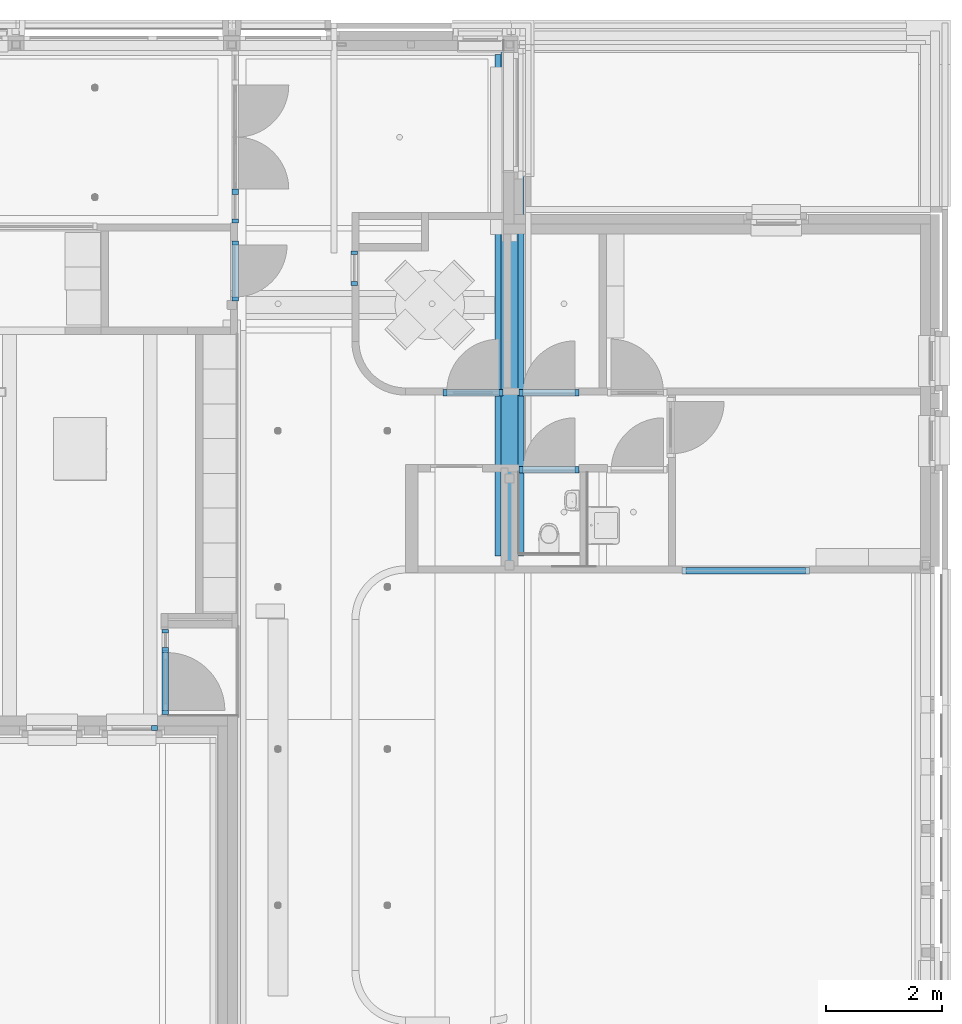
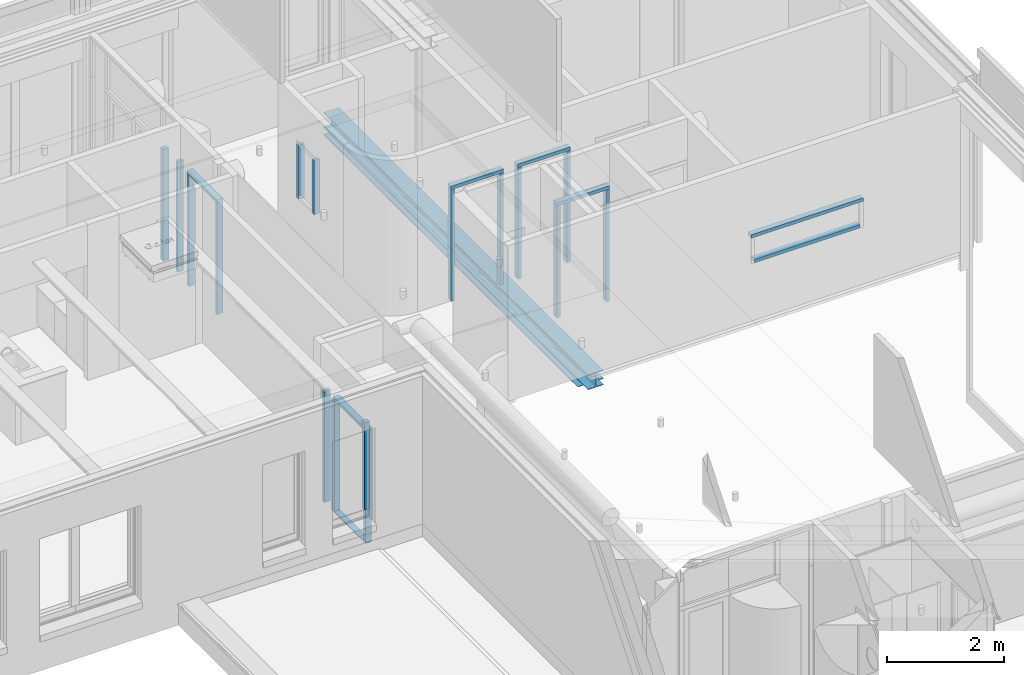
# One storey, part 21 of 128: 24 members, 1 beam, 9 elements without a shape of their own.
"""IFC2X3 building model written with IfcOpenShell, lengths in millimetres."""

from ifc_helpers import new_model, entity, si_unit, converted_unit, derived_unit, direction, frame, frame_2d, origin, origin_2d_with_axis, place, context, subcontext, project, spatial, polyline, circle_curve, parameter, trimmed, segment, composite_curve, rectangle, outline, extrude, source, transform, mapped, material, material_list, type_object, type_shapes, element, aggregate, save


model = new_model("IFC2X3")

# Units and contexts
model_context = context("Model", 3, precision=0.01, world=origin(), true_north=direction((6.123031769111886e-17, 1.0)))
body_context = subcontext(model_context, "Body", "Model", "MODEL_VIEW")
ifc_project = project(units=[si_unit("LENGTHUNIT", "METRE", prefix="MILLI"), si_unit("AREAUNIT", "SQUARE_METRE"), si_unit("VOLUMEUNIT", "CUBIC_METRE"), converted_unit("PLANEANGLEUNIT", "DEGREE", entity("IfcRatioMeasure", 0.017453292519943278), si_unit("PLANEANGLEUNIT", "RADIAN"), dimensions=[0, 0, 0, 0, 0, 0, 0]), si_unit("MASSUNIT", "GRAM", prefix="KILO"), derived_unit("MASSDENSITYUNIT", [(si_unit("MASSUNIT", "GRAM", prefix="KILO"), 1), (si_unit("LENGTHUNIT", "METRE"), -3)]), derived_unit("IONCONCENTRATIONUNIT", [(si_unit("MASSUNIT", "GRAM", prefix="KILO"), 1), (si_unit("LENGTHUNIT", "METRE"), -3)]), derived_unit("MOMENTOFINERTIAUNIT", [(si_unit("LENGTHUNIT", "METRE"), 4)]), si_unit("TIMEUNIT", "SECOND"), si_unit("FREQUENCYUNIT", "HERTZ"), si_unit("THERMODYNAMICTEMPERATUREUNIT", "DEGREE_CELSIUS"), derived_unit("THERMALTRANSMITTANCEUNIT", [(si_unit("MASSUNIT", "GRAM", prefix="KILO"), 1), (si_unit("THERMODYNAMICTEMPERATUREUNIT", "KELVIN"), -1), (si_unit("TIMEUNIT", "SECOND"), -3)]), derived_unit("THERMALCONDUCTANCEUNIT", [(si_unit("MASSUNIT", "GRAM", prefix="KILO"), 1), (si_unit("THERMODYNAMICTEMPERATUREUNIT", "KELVIN"), -1), (si_unit("TIMEUNIT", "SECOND"), -3), (si_unit("LENGTHUNIT", "METRE"), 1)]), derived_unit("VOLUMETRICFLOWRATEUNIT", [(si_unit("LENGTHUNIT", "METRE"), 3), (si_unit("TIMEUNIT", "SECOND"), -1)]), derived_unit("MASSFLOWRATEUNIT", [(si_unit("MASSUNIT", "GRAM", prefix="KILO"), 1), (si_unit("TIMEUNIT", "SECOND"), -1)]), derived_unit("ROTATIONALFREQUENCYUNIT", [(si_unit("TIMEUNIT", "SECOND"), -1)]), si_unit("ELECTRICCURRENTUNIT", "AMPERE"), si_unit("ELECTRICVOLTAGEUNIT", "VOLT"), si_unit("POWERUNIT", "WATT"), si_unit("FORCEUNIT", "NEWTON", prefix="KILO"), si_unit("ILLUMINANCEUNIT", "LUX"), si_unit("LUMINOUSFLUXUNIT", "LUMEN"), si_unit("LUMINOUSINTENSITYUNIT", "CANDELA"), derived_unit("USERDEFINED", [(si_unit("MASSUNIT", "GRAM", prefix="KILO"), -1), (si_unit("LENGTHUNIT", "METRE"), -2), (si_unit("TIMEUNIT", "SECOND"), 3), (si_unit("LUMINOUSFLUXUNIT", "LUMEN"), 1)]), derived_unit("USERDEFINED", [(si_unit("MASSUNIT", "GRAM", prefix="KILO"), 1), (si_unit("TIMEUNIT", "SECOND"), -3), (si_unit("LENGTHUNIT", "METRE"), 3), (si_unit("ELECTRICCURRENTUNIT", "AMPERE"), -2)]), derived_unit("SOUNDPOWERUNIT", [(si_unit("MASSUNIT", "GRAM", prefix="KILO"), 1), (si_unit("TIMEUNIT", "SECOND"), -3), (si_unit("LENGTHUNIT", "METRE"), 2)]), derived_unit("SOUNDPRESSUREUNIT", [(si_unit("MASSUNIT", "GRAM", prefix="KILO"), 1), (si_unit("LENGTHUNIT", "METRE"), -1), (si_unit("TIMEUNIT", "SECOND"), -2)]), derived_unit("LINEARVELOCITYUNIT", [(si_unit("LENGTHUNIT", "METRE"), 1), (si_unit("TIMEUNIT", "SECOND"), -1)]), si_unit("PRESSUREUNIT", "PASCAL"), derived_unit("USERDEFINED", [(si_unit("MASSUNIT", "GRAM", prefix="KILO"), 1), (si_unit("LENGTHUNIT", "METRE"), -2), (si_unit("TIMEUNIT", "SECOND"), -2)]), derived_unit("LINEARFORCEUNIT", [(si_unit("MASSUNIT", "GRAM", prefix="KILO"), 1), (si_unit("TIMEUNIT", "SECOND"), -2)]), derived_unit("PLANARFORCEUNIT", [(si_unit("MASSUNIT", "GRAM", prefix="KILO"), 1), (si_unit("LENGTHUNIT", "METRE"), -1), (si_unit("TIMEUNIT", "SECOND"), -2)]), derived_unit("SPECIFICHEATCAPACITYUNIT", [(si_unit("THERMODYNAMICTEMPERATUREUNIT", "KELVIN"), -1), (si_unit("LENGTHUNIT", "METRE"), 2), (si_unit("TIMEUNIT", "SECOND"), -2)]), derived_unit("HEATINGVALUEUNIT", [(si_unit("LENGTHUNIT", "METRE"), 2), (si_unit("TIMEUNIT", "SECOND"), -2)]), derived_unit("VAPORPERMEABILITYUNIT", [(si_unit("LENGTHUNIT", "METRE"), -1), (si_unit("TIMEUNIT", "SECOND"), 1)]), derived_unit("DYNAMICVISCOSITYUNIT", [(si_unit("MASSUNIT", "GRAM", prefix="KILO"), 1), (si_unit("TIMEUNIT", "SECOND"), -1), (si_unit("LENGTHUNIT", "METRE"), -1)]), derived_unit("THERMALEXPANSIONCOEFFICIENTUNIT", [(si_unit("THERMODYNAMICTEMPERATUREUNIT", "KELVIN"), -1)]), derived_unit("MODULUSOFELASTICITYUNIT", [(si_unit("MASSUNIT", "GRAM", prefix="KILO"), 1), (si_unit("LENGTHUNIT", "METRE"), -1), (si_unit("TIMEUNIT", "SECOND"), -2)]), derived_unit("ISOTHERMALMOISTURECAPACITYUNIT", [(si_unit("LENGTHUNIT", "METRE"), 3), (si_unit("MASSUNIT", "GRAM", prefix="KILO"), -1)]), derived_unit("MOISTUREDIFFUSIVITYUNIT", [(si_unit("TIMEUNIT", "SECOND"), -1), (si_unit("LENGTHUNIT", "METRE"), 2)])], contexts=[model_context])

# Site, building, storey
site_placement = place(None, frame((0.0, 300.0, 0.0)))
site = spatial("IfcSite", under=ifc_project, at=site_placement, Name="<Kadastrale nummers>", CompositionType="ELEMENT")
building_placement = place(site_placement, origin())
building = spatial("IfcBuilding", under=site, at=building_placement, CompositionType="ELEMENT")
storey_placement = place(building_placement, frame((0.0, 0.0, 3560.0000331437)))
storey = spatial("IfcBuildingStorey", under=building, at=storey_placement, Name="01 eerste verdieping", CompositionType="ELEMENT", Elevation=3560.0000331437)

# Beam
ifc_material_1 = material(Name="ISR_Staal")
ifc_material_2 = material(Name="<Unnamed>")
ifc_material_list = material_list([ifc_material_2, ifc_material_1])
beam_type = type_object("IfcBeamType", Name="NLRS_28_SF_LIB_balk SFB_gen_ASN:balk HEA320 500x15", PredefinedType="T_BEAM", material=ifc_material_list)
shared_shape_1 = source(origin(), body_context, "Body", "SweptSolid", [
    extrude(rectangle(XDim=15.00000000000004, YDim=499.99999999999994, at=origin_2d_with_axis()), frame((-4330.000262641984, 0.0, -113.50000000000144), z_axis=(1.0, 0.0, 0.0), x_axis=(0.0, 0.0, -1.0)), (0.0, 0.0, 1.0), 8660.000525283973),
    extrude(outline(composite_curve([segment(polyline([(139.49999999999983, -150.0), (155.0, -150.0)]), True, "CONTINUOUS"), segment(polyline([(155.0, -150.0), (155.0, 150.0)]), True, "CONTINUOUS"), segment(polyline([(155.0, 150.0), (139.49999999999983, 150.0)]), True, "CONTINUOUS"), segment(polyline([(139.49999999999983, 150.0), (139.49999999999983, 31.499999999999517)]), True, "CONTINUOUS"), segment(trimmed(circle_curve(frame_2d((112.49999999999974, 31.499999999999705), x_axis=(1.0, 0.0)), 27.00000000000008), [parameter(270.0000000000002)], [parameter(0.0)], True, "PARAMETER"), False, "CONTINUOUS"), segment(polyline([(112.49999999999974, 4.499999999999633), (-112.5, 4.499999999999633)]), True, "CONTINUOUS"), segment(trimmed(circle_curve(frame_2d((-112.49999999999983, 31.49999999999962), x_axis=(0.0, -1.0)), 26.999999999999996), [parameter(269.9999999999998)], [parameter(0.0)], True, "PARAMETER"), False, "CONTINUOUS"), segment(polyline([(-139.49999999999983, 31.499999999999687), (-139.49999999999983, 150.0)]), True, "CONTINUOUS"), segment(polyline([(-139.49999999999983, 150.0), (-155.0, 150.0)]), True, "CONTINUOUS"), segment(polyline([(-155.0, 150.0), (-155.0, -150.0)]), True, "CONTINUOUS"), segment(polyline([(-155.0, -150.0), (-139.49999999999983, -150.0)]), True, "CONTINUOUS"), segment(polyline([(-139.49999999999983, -150.0), (-139.49999999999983, -31.500000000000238)]), True, "CONTINUOUS"), segment(trimmed(circle_curve(frame_2d((-112.49999999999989, -31.500000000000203), x_axis=(-1.0, 0.0)), 26.99999999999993), [parameter(269.9999999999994)], [parameter(0.0)], True, "PARAMETER"), False, "CONTINUOUS"), segment(polyline([(-112.49999999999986, -4.500000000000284), (112.49999999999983, -4.500000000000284)]), True, "CONTINUOUS"), segment(trimmed(circle_curve(frame_2d((112.49999999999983, -31.500000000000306), x_axis=(0.0, 1.0)), 27.00000000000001), [parameter(269.99999999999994)], [parameter(0.0)], True, "PARAMETER"), False, "CONTINUOUS"), segment(polyline([(139.49999999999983, -31.500000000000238), (139.49999999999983, -150.0)]), True, "CONTINUOUS")], self_intersect=False)), frame((-4505.000262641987, 0.0, 49.0), z_axis=(1.0, 0.0, 0.0), x_axis=(0.0, 0.0, -1.0)), (0.0, 0.0, 1.0), 9010.000525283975),
])
type_shapes(beam_type, [shared_shape_1])
beam_placement = place(storey_placement, frame((41400.0, 45294.99973735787, -214.0), z_axis=(0.0, 0.0, 1.0), x_axis=(0.0, -1.0, 0.0)))
element("IfcBeam", 1, at=beam_placement, inside=storey, type_object=beam_type, material=ifc_material_1, Name="NLRS_28_SF_LIB_balk SFB_gen_ASN:balk HEA320 500x15", ObjectType="NLRS_28_SF_LIB_balk SFB_gen_ASN:balk HEA320 500x15", context=body_context, shape_type="MappedRepresentation", body=[
    mapped(shared_shape_1, transform((0.0, 0.0, 0.0), scale=1.0)),
])

# Curtain wall, member
curtain_wall_type_1 = type_object("IfcCurtainWallType", Name="Curtain Wall:Merk H02", PredefinedType="NOTDEFINED")
curtain_wall_1_placement = place(storey_placement, frame((0.0, 0.0, -3560.0000331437)))
curtain_wall_1 = element("IfcCurtainWall", 2, at=curtain_wall_1_placement, inside=storey, type_object=curtain_wall_type_1, Name="Curtain Wall:Merk H02", ObjectType="Curtain Wall:Merk H02")
ifc_material_3 = material(Name="ISR_HPL")
member_type_1 = type_object("IfcMemberType", Name="Rectangular Mullion:31_CWM_067x114", PredefinedType="MULLION", material=ifc_material_3)
shared_shape_2 = source(origin(), body_context, "Body", "SweptSolid", [
    extrude(rectangle(XDim=113.99999999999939, YDim=67.0, at=origin_2d_with_axis()), frame((-33.5, -57.0, -1034.0), z_axis=(0.0, 0.0, 1.0), x_axis=(0.0, -1.0, 0.0)), (0.0, 0.0, 1.0), 1033.9999999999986),
])
type_shapes(member_type_1, [shared_shape_2])
member_1_placement = place(curtain_wall_1_placement, frame((42599.0, 43725.12500267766, 6040.0000331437), z_axis=(1.0, 0.0, 0.0), x_axis=(0.0, 0.0, 1.0)))
member_1 = element("IfcMember", 3, at=member_1_placement, type_object=member_type_1, material=ifc_material_3, Name="Rectangular Mullion:31_CWM_067x114", ObjectType="Rectangular Mullion:31_CWM_067x114", context=body_context, shape_type="MappedRepresentation", body=[
    mapped(shared_shape_2, transform((0.0, 0.0, 0.0), scale=1.0)),
])

curtain_wall_2_placement = place(storey_placement, frame((0.0, 0.0, -3560.0000331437)))
curtain_wall_2 = element("IfcCurtainWall", 4, at=curtain_wall_2_placement, inside=storey, type_object=curtain_wall_type_1, Name="Curtain Wall:Merk H02", ObjectType="Curtain Wall:Merk H02")
member_2_placement = place(curtain_wall_2_placement, frame((42599.0, 42395.12500267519, 6040.0000331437), z_axis=(1.0, 0.0, 0.0), x_axis=(0.0, 0.0, 1.0)))
member_2 = element("IfcMember", 5, at=member_2_placement, type_object=member_type_1, material=ifc_material_3, Name="Rectangular Mullion:31_CWM_067x114", ObjectType="Rectangular Mullion:31_CWM_067x114", context=body_context, shape_type="MappedRepresentation", body=[
    mapped(shared_shape_2, transform((0.0, 0.0, 0.0), scale=1.0)),
])

curtain_wall_type_2 = type_object("IfcCurtainWallType", Name="Curtain Wall:Merk H16", PredefinedType="NOTDEFINED")
curtain_wall_3_placement = place(storey_placement, frame((0.0, 0.0, -3560.0000331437)))
curtain_wall_3 = element("IfcCurtainWall", 6, at=curtain_wall_3_placement, inside=storey, type_object=curtain_wall_type_2, Name="Curtain Wall:Merk H16", ObjectType="Curtain Wall:Merk H16")
member_3_placement = place(curtain_wall_3_placement, frame((41285.0, 43725.12500267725, 6040.0000331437), z_axis=(1.0, 0.0, 0.0), x_axis=(0.0, 0.0, 1.0)))
member_3 = element("IfcMember", 7, at=member_3_placement, type_object=member_type_1, material=ifc_material_3, Name="Rectangular Mullion:31_CWM_067x114", ObjectType="Rectangular Mullion:31_CWM_067x114", context=body_context, shape_type="MappedRepresentation", body=[
    mapped(shared_shape_2, transform((0.0, 0.0, 0.0), scale=1.0)),
])

# Member
member_type_2 = type_object("IfcMemberType", Name="Rectangular Mullion:31_CWM_067x114", PredefinedType="MULLION", material=ifc_material_3)
shared_shape_3 = source(origin(), body_context, "Body", "SweptSolid", [
    extrude(rectangle(XDim=113.99999999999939, YDim=67.0, at=origin_2d_with_axis()), frame((-33.5, -57.0, -2323.0), z_axis=(0.0, 0.0, 1.0), x_axis=(0.0, -1.0, 0.0)), (0.0, 0.0, 1.0), 2323.0),
])
type_shapes(member_type_2, [shared_shape_3])
member_4_placement = place(curtain_wall_1_placement, frame((42599.0, 43725.12500267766, 3650.00003501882), z_axis=(0.0, 0.0, -1.0), x_axis=(1.0, 0.0, 0.0)))
member_4 = element("IfcMember", 8, at=member_4_placement, type_object=member_type_2, material=ifc_material_3, Name="Rectangular Mullion:31_CWM_067x114", ObjectType="Rectangular Mullion:31_CWM_067x114", context=body_context, shape_type="MappedRepresentation", body=[
    mapped(shared_shape_3, transform((0.0, 0.0, 0.0), scale=1.0)),
])

member_5_placement = place(curtain_wall_2_placement, frame((42599.0, 42395.12500267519, 3650.00003501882), z_axis=(0.0, 0.0, -1.0), x_axis=(1.0, 0.0, 0.0)))
member_5 = element("IfcMember", 9, at=member_5_placement, type_object=member_type_2, material=ifc_material_3, Name="Rectangular Mullion:31_CWM_067x114", ObjectType="Rectangular Mullion:31_CWM_067x114", context=body_context, shape_type="MappedRepresentation", body=[
    mapped(shared_shape_3, transform((0.0, 0.0, 0.0), scale=1.0)),
])

member_6_placement = place(curtain_wall_3_placement, frame((41285.0, 43725.12500267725, 3650.0000350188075), z_axis=(0.0, 0.0, -1.0), x_axis=(1.0, 0.0, 0.0)))
member_6 = element("IfcMember", 10, at=member_6_placement, type_object=member_type_2, material=ifc_material_3, Name="Rectangular Mullion:31_CWM_067x114", ObjectType="Rectangular Mullion:31_CWM_067x114", context=body_context, shape_type="MappedRepresentation", body=[
    mapped(shared_shape_3, transform((0.0, 0.0, 0.0), scale=1.0)),
])

# Curtain wall, member
curtain_wall_type_3 = type_object("IfcCurtainWallType", Name="Curtain Wall:Merk H03", PredefinedType="NOTDEFINED")
curtain_wall_4_placement = place(storey_placement, frame((0.0, 0.0, -3560.0000331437)))
curtain_wall_4 = element("IfcCurtainWall", 11, at=curtain_wall_4_placement, inside=storey, type_object=curtain_wall_type_3, Name="Curtain Wall:Merk H03", ObjectType="Curtain Wall:Merk H03")
member_type_3 = type_object("IfcMemberType", Name="Rectangular Mullion:31_CWM_067x114", PredefinedType="MULLION", material=ifc_material_3)
shared_shape_4 = source(origin(), body_context, "Body", "SweptSolid", [
    extrude(rectangle(XDim=113.9999999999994, YDim=67.0, at=frame_2d((1.0658141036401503e-14, 0.0), x_axis=(1.0, 0.0))), frame((-33.5, -57.0, -2323.0), z_axis=(0.0, 0.0, 1.0), x_axis=(0.0, -1.0, 0.0)), (0.0, 0.0, 1.0), 2323.0),
])
type_shapes(member_type_3, [shared_shape_4])
member_7_placement = place(curtain_wall_4_placement, frame((35396.03993791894, 39695.0, 5973.0000331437), z_axis=(0.0, 0.0, 1.0), x_axis=(0.0, 1.0, 0.0)))
member_7 = element("IfcMember", 12, at=member_7_placement, type_object=member_type_3, material=ifc_material_3, Name="Rectangular Mullion:31_CWM_067x114", ObjectType="Rectangular Mullion:31_CWM_067x114", context=body_context, shape_type="MappedRepresentation", body=[
    mapped(shared_shape_4, transform((0.0, 0.0, 0.0), scale=1.0)),
])

# Member
member_8_placement = place(curtain_wall_1_placement, frame((41565.0, 43725.12500267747, 5973.0000331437), z_axis=(0.0, 0.0, 1.0), x_axis=(-1.0, 0.0, 0.0)))
member_8 = element("IfcMember", 13, at=member_8_placement, type_object=member_type_3, material=ifc_material_3, Name="Rectangular Mullion:31_CWM_067x114", ObjectType="Rectangular Mullion:31_CWM_067x114", context=body_context, shape_type="MappedRepresentation", body=[
    mapped(shared_shape_4, transform((0.0, 0.0, 0.0), scale=1.0)),
])

aggregate(curtain_wall_1, [member_1, member_4, member_8])

member_9_placement = place(curtain_wall_2_placement, frame((41565.0, 42395.125002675, 5973.0000331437), z_axis=(0.0, 0.0, 1.0), x_axis=(-1.0, 0.0, 0.0)))
member_9 = element("IfcMember", 14, at=member_9_placement, type_object=member_type_3, material=ifc_material_3, Name="Rectangular Mullion:31_CWM_067x114", ObjectType="Rectangular Mullion:31_CWM_067x114", context=body_context, shape_type="MappedRepresentation", body=[
    mapped(shared_shape_4, transform((0.0, 0.0, 0.0), scale=1.0)),
])

aggregate(curtain_wall_2, [member_2, member_5, member_9])

member_10_placement = place(curtain_wall_3_placement, frame((40251.0, 43725.12500267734, 5973.0000331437), z_axis=(0.0, 0.0, 1.0), x_axis=(-1.0, 0.0, 0.0)))
member_10 = element("IfcMember", 15, at=member_10_placement, type_object=member_type_3, material=ifc_material_3, Name="Rectangular Mullion:31_CWM_067x114", ObjectType="Rectangular Mullion:31_CWM_067x114", context=body_context, shape_type="MappedRepresentation", body=[
    mapped(shared_shape_4, transform((0.0, 0.0, 0.0), scale=1.0)),
])

aggregate(curtain_wall_3, [member_3, member_6, member_10])

# Curtain wall, members
curtain_wall_5_placement = place(storey_placement, frame((0.0, 0.0, -3560.0000331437)))
curtain_wall_5 = element("IfcCurtainWall", 16, at=curtain_wall_5_placement, inside=storey, type_object=curtain_wall_type_1, Name="Curtain Wall:Merk H02", ObjectType="Curtain Wall:Merk H02")
member_type_4 = type_object("IfcMemberType", Name="Rectangular Mullion:31_CWM_067x114", PredefinedType="MULLION", material=ifc_material_3)
shared_shape_5 = source(origin(), body_context, "Body", "SweptSolid", [
    extrude(rectangle(XDim=113.99999999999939, YDim=67.0, at=origin_2d_with_axis()), frame((-33.5, 57.0, -2323.0), z_axis=(0.0, 0.0, 1.0), x_axis=(0.0, -1.0, 0.0)), (0.0, 0.0, 1.0), 2323.0),
])
type_shapes(member_type_4, [shared_shape_5])
member_11_placement = place(curtain_wall_5_placement, frame((36601.0, 46404.10974942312, 3650.000035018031), z_axis=(0.0, 0.0, -1.0), x_axis=(0.0, 1.0, 0.0)))
member_11 = element("IfcMember", 17, at=member_11_placement, type_object=member_type_4, material=ifc_material_3, Name="Rectangular Mullion:31_CWM_067x114", ObjectType="Rectangular Mullion:31_CWM_067x114", context=body_context, shape_type="MappedRepresentation", body=[
    mapped(shared_shape_5, transform((0.0, 0.0, 0.0), scale=1.0)),
])
member_type_5 = type_object("IfcMemberType", Name="Rectangular Mullion:31_CWM_067x114", PredefinedType="MULLION", material=ifc_material_3)
shared_shape_6 = source(origin(), body_context, "Body", "SweptSolid", [
    extrude(rectangle(XDim=113.99999999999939, YDim=67.0, at=origin_2d_with_axis()), frame((-33.5, 57.0, -2323.0), z_axis=(0.0, 0.0, 1.0), x_axis=(0.0, -1.0, 0.0)), (0.0, 0.0, 1.0), 2323.0),
])
type_shapes(member_type_5, [shared_shape_6])
member_12_placement = place(curtain_wall_5_placement, frame((36601.0, 45370.109749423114, 5973.0000331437), z_axis=(0.0, 0.0, 1.0), x_axis=(0.0, -1.0, 0.0)))
member_12 = element("IfcMember", 18, at=member_12_placement, type_object=member_type_5, material=ifc_material_3, Name="Rectangular Mullion:31_CWM_067x114", ObjectType="Rectangular Mullion:31_CWM_067x114", context=body_context, shape_type="MappedRepresentation", body=[
    mapped(shared_shape_6, transform((0.0, 0.0, 0.0), scale=1.0)),
])
member_type_6 = type_object("IfcMemberType", Name="Rectangular Mullion:31_CWM_067x114", PredefinedType="MULLION", material=ifc_material_3)
shared_shape_7 = source(origin(), body_context, "Body", "SweptSolid", [
    extrude(rectangle(XDim=113.99999999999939, YDim=67.0, at=origin_2d_with_axis()), frame((-33.5, 57.0, -1034.0), z_axis=(0.0, 0.0, 1.0), x_axis=(0.0, -1.0, 0.0)), (0.0, 0.0, 1.0), 1033.9999999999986),
])
type_shapes(member_type_6, [shared_shape_7])
member_13_placement = place(curtain_wall_5_placement, frame((36601.0, 46404.10974942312, 6040.0000331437), z_axis=(0.0, 1.0, 0.0), x_axis=(0.0, 0.0, 1.0)))
member_13 = element("IfcMember", 19, at=member_13_placement, type_object=member_type_6, material=ifc_material_3, Name="Rectangular Mullion:31_CWM_067x114", ObjectType="Rectangular Mullion:31_CWM_067x114", context=body_context, shape_type="MappedRepresentation", body=[
    mapped(shared_shape_7, transform((0.0, 0.0, 0.0), scale=1.0)),
])
aggregate(curtain_wall_5, [member_13, member_11, member_12])

# Member
member_type_7 = type_object("IfcMemberType", Name="Rectangular Mullion:31_CWM_067x114", PredefinedType="MULLION", material=ifc_material_3)
shared_shape_8 = source(origin(), body_context, "Body", "SweptSolid", [
    extrude(rectangle(XDim=113.99999999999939, YDim=67.0, at=origin_2d_with_axis()), frame((-33.5, -57.0, -1112.0), z_axis=(0.0, 0.0, 1.0), x_axis=(0.0, -1.0, 0.0)), (0.0, 0.0, 1.0), 1112.0000000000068),
])
type_shapes(member_type_7, [shared_shape_8])
member_14_placement = place(curtain_wall_4_placement, frame((35396.03993791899, 38225.0, 6040.0000331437), z_axis=(0.0, -1.0, 0.0), x_axis=(0.0, 0.0, 1.0)))
member_14 = element("IfcMember", 20, at=member_14_placement, type_object=member_type_7, material=ifc_material_3, Name="Rectangular Mullion:31_CWM_067x114", ObjectType="Rectangular Mullion:31_CWM_067x114", context=body_context, shape_type="MappedRepresentation", body=[
    mapped(shared_shape_8, transform((0.0, 0.0, 0.0), scale=1.0)),
])

member_type_8 = type_object("IfcMemberType", Name="Rectangular Mullion:31_CWM_067x114", PredefinedType="MULLION", material=ifc_material_3)
shared_shape_9 = source(origin(), body_context, "Body", "SweptSolid", [
    extrude(rectangle(XDim=113.9999999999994, YDim=67.0, at=frame_2d((1.0658141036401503e-14, 0.0), x_axis=(1.0, 0.0))), frame((-33.5, -57.0, -2303.0), z_axis=(0.0, 0.0, 1.0), x_axis=(0.0, -1.0, 0.0)), (0.0, 0.0, 1.0), 2303.0),
])
type_shapes(member_type_8, [shared_shape_9])
member_15_placement = place(curtain_wall_4_placement, frame((35396.03993791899, 38225.0, 3670.0000350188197), z_axis=(0.0, 0.0, -1.0), x_axis=(0.0, -1.0, 0.0)))
member_15 = element("IfcMember", 21, at=member_15_placement, type_object=member_type_8, material=ifc_material_3, Name="Rectangular Mullion:31_CWM_067x114", ObjectType="Rectangular Mullion:31_CWM_067x114", context=body_context, shape_type="MappedRepresentation", body=[
    mapped(shared_shape_9, transform((0.0, 0.0, 0.0), scale=1.0)),
])

ifc_material_4 = material(Name="ISR_Kunststof_grijs")
member_type_9 = type_object("IfcMemberType", Name="Rectangular Mullion:31_CWM_020x114", PredefinedType="MULLION", material=ifc_material_4)
shared_shape_10 = source(origin(), body_context, "Body", "SweptSolid", [
    extrude(rectangle(XDim=113.99999999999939, YDim=20.0, at=origin_2d_with_axis()), frame((-10.0, -57.0, -1067.0), z_axis=(0.0, 0.0, 1.0), x_axis=(0.0, -1.0, 0.0)), (0.0, 0.0, 1.0), 1067.0000000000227),
])
type_shapes(member_type_9, [shared_shape_10])
member_16_placement = place(curtain_wall_4_placement, frame((35396.039937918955, 39292.0, 3650.0000350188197), z_axis=(0.0, 1.0, 0.0), x_axis=(0.0, 0.0, -1.0)))
member_16 = element("IfcMember", 22, at=member_16_placement, type_object=member_type_9, material=ifc_material_4, Name="Rectangular Mullion:31_CWM_020x114", ObjectType="Rectangular Mullion:31_CWM_020x114", context=body_context, shape_type="MappedRepresentation", body=[
    mapped(shared_shape_10, transform((0.0, 0.0, 0.0), scale=1.0)),
])

ifc_material_5 = material(Name="ISR_HPL Kleur hout")
member_type_10 = type_object("IfcMemberType", Name="Rectangular Mullion:31_CWM_090x114", PredefinedType="MULLION", material=ifc_material_5)
shared_shape_11 = source(origin(), body_context, "Body", "SweptSolid", [
    extrude(rectangle(XDim=113.99999999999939, YDim=90.0, at=origin_2d_with_axis()), frame((0.0, -57.0, -2323.0), z_axis=(0.0, 0.0, 1.0), x_axis=(0.0, -1.0, 0.0)), (0.0, 0.0, 1.0), 2323.0000000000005),
])
type_shapes(member_type_10, [shared_shape_11])
member_17_placement = place(curtain_wall_4_placement, frame((35396.039937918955, 39337.0, 3650.0000350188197), z_axis=(0.0, 0.0, -1.0), x_axis=(0.0, -1.0, 0.0)))
member_17 = element("IfcMember", 23, at=member_17_placement, type_object=member_type_10, material=ifc_material_5, Name="Rectangular Mullion:31_CWM_090x114", ObjectType="Rectangular Mullion:31_CWM_090x114", context=body_context, shape_type="MappedRepresentation", body=[
    mapped(shared_shape_11, transform((0.0, 0.0, 0.0), scale=1.0)),
])

aggregate(curtain_wall_4, [member_14, member_15, member_7, member_16, member_17])

# Curtain wall, members
curtain_wall_type_4 = type_object("IfcCurtainWallType", Name="Curtain Wall:Merk H05", PredefinedType="NOTDEFINED")
curtain_wall_6_placement = place(storey_placement, frame((0.0, 0.0, -3560.0000331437)))
curtain_wall_6 = element("IfcCurtainWall", 24, at=curtain_wall_6_placement, inside=storey, type_object=curtain_wall_type_4, Name="Curtain Wall:Merk H05", ObjectType="Curtain Wall:Merk H05")
member_type_11 = type_object("IfcMemberType", Name="Rectangular Mullion:31_CWM_067x114", PredefinedType="MULLION", material=ifc_material_3)
shared_shape_12 = source(origin(), body_context, "Body", "SweptSolid", [
    extrude(rectangle(XDim=113.99999999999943, YDim=67.0, at=origin_2d_with_axis()), frame((-33.5, 57.0, -1123.0), z_axis=(0.0, 0.0, 1.0), x_axis=(0.0, -1.0, 0.0)), (0.0, 0.0, 1.0), 1123.0000000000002),
])
type_shapes(member_type_11, [shared_shape_12])
member_18_placement = place(curtain_wall_6_placement, frame((38774.0, 45635.0, 4850.0000331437), z_axis=(0.0, 0.0, -1.0), x_axis=(0.0, -1.0, 0.0)))
member_18 = element("IfcMember", 25, at=member_18_placement, type_object=member_type_11, material=ifc_material_3, Name="Rectangular Mullion:31_CWM_067x114", ObjectType="Rectangular Mullion:31_CWM_067x114", context=body_context, shape_type="MappedRepresentation", body=[
    mapped(shared_shape_12, transform((0.0, 0.0, 0.0), scale=1.0)),
])
member_type_12 = type_object("IfcMemberType", Name="Rectangular Mullion:31_CWM_067x114", PredefinedType="MULLION", material=ifc_material_3)
shared_shape_13 = source(origin(), body_context, "Body", "SweptSolid", [
    extrude(rectangle(XDim=113.99999999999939, YDim=67.0, at=origin_2d_with_axis()), frame((-33.5, 57.0, -1123.0), z_axis=(0.0, 0.0, 1.0), x_axis=(0.0, -1.0, 0.0)), (0.0, 0.0, 1.0), 1123.0000000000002),
])
type_shapes(member_type_12, [shared_shape_13])
member_19_placement = place(curtain_wall_6_placement, frame((38774.0, 46235.0, 5973.0000331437), z_axis=(0.0, 0.0, 1.0), x_axis=(0.0, 1.0, 0.0)))
member_19 = element("IfcMember", 26, at=member_19_placement, type_object=member_type_12, material=ifc_material_3, Name="Rectangular Mullion:31_CWM_067x114", ObjectType="Rectangular Mullion:31_CWM_067x114", context=body_context, shape_type="MappedRepresentation", body=[
    mapped(shared_shape_13, transform((0.0, 0.0, 0.0), scale=1.0)),
])
aggregate(curtain_wall_6, [member_18, member_19])

curtain_wall_type_5 = type_object("IfcCurtainWallType", Name="Curtain Wall:Merk H13", PredefinedType="NOTDEFINED")
curtain_wall_7_placement = place(storey_placement, frame((0.0, 0.0, -3560.0000331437)))
curtain_wall_7 = element("IfcCurtainWall", 27, at=curtain_wall_7_placement, inside=storey, type_object=curtain_wall_type_5, Name="Curtain Wall:Merk H13", ObjectType="Curtain Wall:Merk H13")
member_type_13 = type_object("IfcMemberType", Name="Rectangular Mullion:31_CWM_067x114", PredefinedType="MULLION", material=ifc_material_3)
shared_shape_14 = source(origin(), body_context, "Body", "SweptSolid", [
    extrude(rectangle(XDim=113.9999999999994, YDim=67.0, at=frame_2d((1.0658141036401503e-14, 0.0), x_axis=(1.0, 0.0))), frame((-33.5, -57.0, -2205.0), z_axis=(0.0, 0.0, 1.0), x_axis=(0.0, -1.0, 0.0)), (0.0, 0.0, 1.0), 2205.0000000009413),
])
type_shapes(member_type_13, [shared_shape_14])
member_20_placement = place(curtain_wall_7_placement, frame((46585.0, 40650.0, 5450.0000331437), z_axis=(1.0, 0.0, 0.0), x_axis=(0.0, 0.0, 1.0)))
member_20 = element("IfcMember", 28, at=member_20_placement, type_object=member_type_13, material=ifc_material_3, Name="Rectangular Mullion:31_CWM_067x114", ObjectType="Rectangular Mullion:31_CWM_067x114", context=body_context, shape_type="MappedRepresentation", body=[
    mapped(shared_shape_14, transform((0.0, 0.0, 0.0), scale=1.0)),
])
member_type_14 = type_object("IfcMemberType", Name="Rectangular Mullion:31_CWM_067x114", PredefinedType="MULLION", material=ifc_material_3)
shared_shape_15 = source(origin(), body_context, "Body", "SweptSolid", [
    extrude(rectangle(XDim=113.9999999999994, YDim=67.0, at=frame_2d((1.0658141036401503e-14, 0.0), x_axis=(1.0, 0.0))), frame((-33.5, -57.0, -2071.0), z_axis=(0.0, 0.0, 1.0), x_axis=(0.0, -1.0, 0.0)), (0.0, 0.0, 1.0), 2071.000000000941),
])
type_shapes(member_type_14, [shared_shape_15])
member_21_placement = place(curtain_wall_7_placement, frame((44447.0, 40650.0, 4850.0000331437), z_axis=(-1.0, 0.0, 0.0), x_axis=(0.0, 0.0, -1.0)))
member_21 = element("IfcMember", 29, at=member_21_placement, type_object=member_type_14, material=ifc_material_3, Name="Rectangular Mullion:31_CWM_067x114", ObjectType="Rectangular Mullion:31_CWM_067x114", context=body_context, shape_type="MappedRepresentation", body=[
    mapped(shared_shape_15, transform((0.0, 0.0, 0.0), scale=1.0)),
])
aggregate(curtain_wall_7, [member_20, member_21])

curtain_wall_type_6 = type_object("IfcCurtainWallType", Name="Curtain Wall:Merk H11", PredefinedType="NOTDEFINED")
curtain_wall_8_placement = place(storey_placement, frame((0.0, 0.0, -3560.0000331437)))
curtain_wall_8 = element("IfcCurtainWall", 30, at=curtain_wall_8_placement, inside=storey, type_object=curtain_wall_type_6, Name="Curtain Wall:Merk H11", ObjectType="Curtain Wall:Merk H11")
member_type_15 = type_object("IfcMemberType", Name="Rectangular Mullion:31_CWM_067x114", PredefinedType="MULLION", material=ifc_material_3)
shared_shape_16 = source(origin(), body_context, "Body", "SweptSolid", [
    extrude(rectangle(XDim=113.99999999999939, YDim=67.0, at=origin_2d_with_axis()), frame((-33.5, -57.0, -2301.0), z_axis=(0.0, 0.0, 1.0), x_axis=(0.0, -1.0, 0.0)), (0.0, 0.0, 1.0), 2301.0000000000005),
])
type_shapes(member_type_15, [shared_shape_16])
member_22_placement = place(curtain_wall_8_placement, frame((36601.0, 46715.0, 3717.0000350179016), z_axis=(0.0, 0.0, -1.0), x_axis=(0.0, -1.0, 0.0)))
member_22 = element("IfcMember", 31, at=member_22_placement, type_object=member_type_15, material=ifc_material_3, Name="Rectangular Mullion:31_CWM_067x114", ObjectType="Rectangular Mullion:31_CWM_067x114", context=body_context, shape_type="MappedRepresentation", body=[
    mapped(shared_shape_16, transform((0.0, 0.0, 0.0), scale=1.0)),
])
member_type_16 = type_object("IfcMemberType", Name="Rectangular Mullion:31_CWM_090x114", PredefinedType="MULLION", material=ifc_material_5)
shared_shape_17 = source(origin(), body_context, "Body", "SweptSolid", [
    extrude(rectangle(XDim=113.99999999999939, YDim=90.0, at=origin_2d_with_axis()), frame((0.0, -57.0, -2323.0), z_axis=(0.0, 0.0, 1.0), x_axis=(0.0, -1.0, 0.0)), (0.0, 0.0, 1.0), 2322.9999999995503),
])
type_shapes(member_type_16, [shared_shape_17])
member_23_placement = place(curtain_wall_8_placement, frame((36601.0, 47255.0, 3650.0000350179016), z_axis=(0.0, 0.0, -1.0), x_axis=(0.0, -1.0, 0.0)))
member_23 = element("IfcMember", 32, at=member_23_placement, type_object=member_type_16, material=ifc_material_5, Name="Rectangular Mullion:31_CWM_090x114", ObjectType="Rectangular Mullion:31_CWM_090x114", context=body_context, shape_type="MappedRepresentation", body=[
    mapped(shared_shape_17, transform((0.0, 0.0, 0.0), scale=1.0)),
])
aggregate(curtain_wall_8, [member_22, member_23])

# Curtain wall, member
curtain_wall_type_7 = type_object("IfcCurtainWallType", Name="Curtain Wall:K_28", PredefinedType="NOTDEFINED")
curtain_wall_9_placement = place(storey_placement, frame((0.0, 0.0, -3560.0000331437)))
curtain_wall_9 = element("IfcCurtainWall", 33, at=curtain_wall_9_placement, inside=storey, type_object=curtain_wall_type_7, Name="Curtain Wall:K_28", ObjectType="Curtain Wall:K_28")
ifc_material_6 = material(Name="ISR_Kunststof_RAL7006")
member_type_17 = type_object("IfcMemberType", Name="Rectangular Mullion:100x83 Gealan Kubus", PredefinedType="MULLION", material=ifc_material_6)
shared_shape_18 = source(origin(), body_context, "Body", "SweptSolid", [
    extrude(rectangle(XDim=83.0, YDim=100.0, at=origin_2d_with_axis()), frame((-50.0, 41.5, -1810.0), z_axis=(0.0, 0.0, 1.0), x_axis=(0.0, -1.0, 0.0)), (0.0, 0.0, 1.0), 1810.0),
])
type_shapes(member_type_17, [shared_shape_18])
member_24_placement = place(curtain_wall_9_placement, frame((35314.0, 38032.0, 4580.000035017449), z_axis=(0.0, 0.0, -1.0), x_axis=(1.0, 0.0, 0.0)))
member_24 = element("IfcMember", 34, at=member_24_placement, type_object=member_type_17, material=ifc_material_6, Name="Rectangular Mullion:100x83 Gealan Kubus", ObjectType="Rectangular Mullion:100x83 Gealan Kubus", context=body_context, shape_type="MappedRepresentation", body=[
    mapped(shared_shape_18, transform((0.0, 0.0, 0.0), scale=1.0)),
])
aggregate(curtain_wall_9, [member_24])

save(model, "model.ifc")
